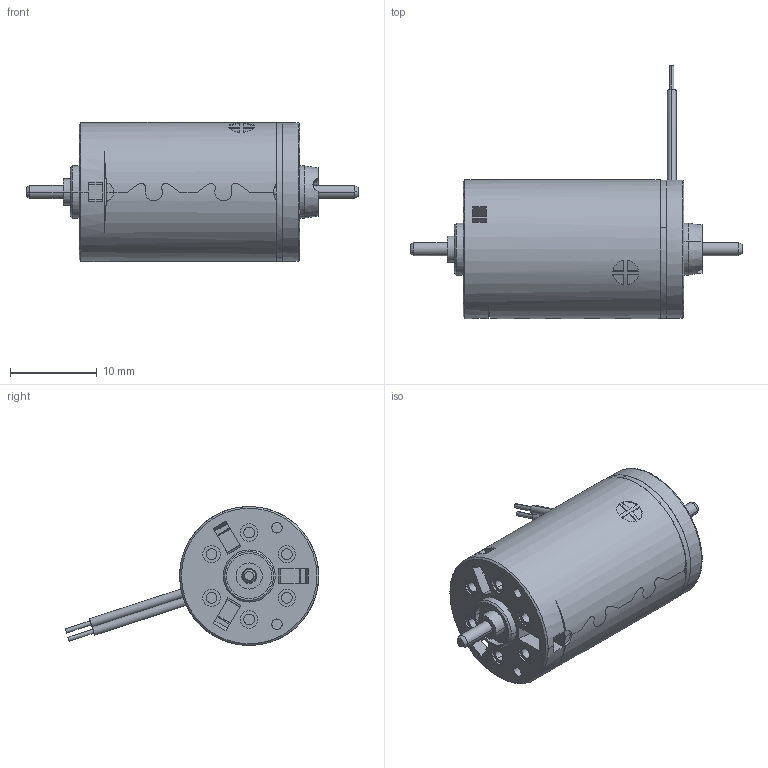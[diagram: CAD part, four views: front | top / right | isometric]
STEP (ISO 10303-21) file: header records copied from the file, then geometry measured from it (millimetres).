
FILE_DESCRIPTION((''),'2;1');
FILE_NAME('139825_AMAX16_GB_2W_SL_2WE','2016-10-14T',('mmagvisi'),(''),'CREO PARAMETRIC BY PTC INC, 2016050','CREO PARAMETRIC BY PTC INC, 2016050','');
FILE_SCHEMA(('CONFIG_CONTROL_DESIGN'));
Length unit declared in the file: millimetre
Products named in the file (1): 139825_AMAX16_GB_2W_SL_2WE
Bounding box: 38.2 x 29.16 x 16 mm (x, y, z)
Volume: 5019.9 mm3; surface area: 2600.9 mm2
Topology: 1 solids, 4 shells, 483 faces, 1393 edges, 911 vertices
Faces by surface type: plane 230, cylinder 184, cone 46, torus 13, bspline 8, extrusion 2
Entity records: 22739 total; most frequent: CARTESIAN_POINT 5599, ORIENTED_EDGE 2786, DIRECTION 2654, PRESENTATION_STYLE_ASSIGNMENT 1394, STYLED_ITEM 1394, CURVE_STYLE 1393, EDGE_CURVE 1393, AXIS2_PLACEMENT_3D 983
